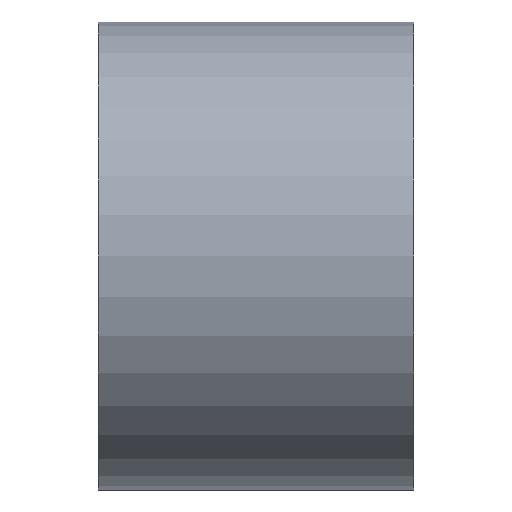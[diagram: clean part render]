
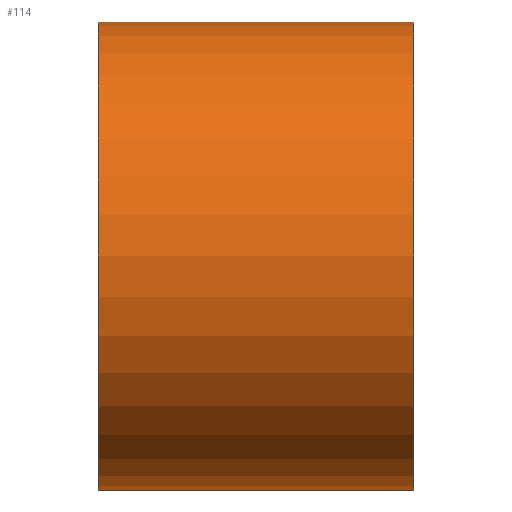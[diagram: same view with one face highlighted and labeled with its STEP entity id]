
A CAD part, front view. The second image highlights one B-rep face of the part: STEP entity #114.
In plain terms, the highlighted cylindrical face has radius 96.5 mm (diameter 193 mm), a partial arc.
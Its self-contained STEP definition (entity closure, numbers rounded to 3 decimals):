
#4 = ORIENTED_EDGE ( 'NONE', *, *, #150, .T. ) ;
#34 = ORIENTED_EDGE ( 'NONE', *, *, #56, .F. ) ;
#56 = EDGE_CURVE ( 'NONE', #142, #1445, #732, .T. ) ;
#85 = EDGE_LOOP ( 'NONE', ( #34, #4, #1372, #1199 ) ) ;
#114 = ADVANCED_FACE ( 'NONE', ( #1124 ), #1125, .T. ) ;
#142 = VERTEX_POINT ( 'NONE', #1209 ) ;
#150 = EDGE_CURVE ( 'NONE', #142, #170, #1249, .T. ) ;
#170 = VERTEX_POINT ( 'NONE', #669 ) ;
#524 = CARTESIAN_POINT ( 'NONE',  ( 0., 0., -96.5 ) ) ;
#612 = CARTESIAN_POINT ( 'NONE',  ( 0., 0., 96.5 ) ) ;
#669 = CARTESIAN_POINT ( 'NONE',  ( 130., 0., 96.5 ) ) ;
#732 = LINE ( 'NONE', #733, #734 ) ;
#733 = CARTESIAN_POINT ( 'NONE',  ( 0., 0., -96.5 ) ) ;
#734 = VECTOR ( 'NONE', #735, 1000. ) ;
#735 = DIRECTION ( 'NONE',  ( -1., 0., 0. ) ) ;
#765 = EDGE_CURVE ( 'NONE', #170, #1363, #817, .T. ) ;
#817 = LINE ( 'NONE', #818, #819 ) ;
#818 = CARTESIAN_POINT ( 'NONE',  ( 0., 0., 96.5 ) ) ;
#819 = VECTOR ( 'NONE', #820, 1000. ) ;
#820 = DIRECTION ( 'NONE',  ( -1., 0., 0. ) ) ;
#846 = EDGE_CURVE ( 'NONE', #1445, #1363, #886, .T. ) ;
#886 = CIRCLE ( 'NONE', #887, 96.5 ) ;
#887 = AXIS2_PLACEMENT_3D ( 'NONE', #888, #889, #890 ) ;
#888 = CARTESIAN_POINT ( 'NONE',  ( 0., 0., 0. ) ) ;
#889 = DIRECTION ( 'NONE',  ( -1., 0., 0. ) ) ;
#890 = DIRECTION ( 'NONE',  ( 0., 0., 1. ) ) ;
#1124 = FACE_OUTER_BOUND ( 'NONE', #85, .T. ) ;
#1125 = CYLINDRICAL_SURFACE ( 'NONE', #1126, 96.5 ) ;
#1126 = AXIS2_PLACEMENT_3D ( 'NONE', #1130, #1131, #1132 ) ;
#1130 = CARTESIAN_POINT ( 'NONE',  ( 0., 0., 0. ) ) ;
#1131 = DIRECTION ( 'NONE',  ( -1., 0., 0. ) ) ;
#1132 = DIRECTION ( 'NONE',  ( 0., 0., 1. ) ) ;
#1199 = ORIENTED_EDGE ( 'NONE', *, *, #846, .F. ) ;
#1209 = CARTESIAN_POINT ( 'NONE',  ( 130., 0., -96.5 ) ) ;
#1249 = CIRCLE ( 'NONE', #1252, 96.5 ) ;
#1252 = AXIS2_PLACEMENT_3D ( 'NONE', #1253, #1254, #1255 ) ;
#1253 = CARTESIAN_POINT ( 'NONE',  ( 130., 0., 0. ) ) ;
#1254 = DIRECTION ( 'NONE',  ( -1., 0., 0. ) ) ;
#1255 = DIRECTION ( 'NONE',  ( 0., 0., 1. ) ) ;
#1363 = VERTEX_POINT ( 'NONE', #612 ) ;
#1372 = ORIENTED_EDGE ( 'NONE', *, *, #765, .T. ) ;
#1445 = VERTEX_POINT ( 'NONE', #524 ) ;
